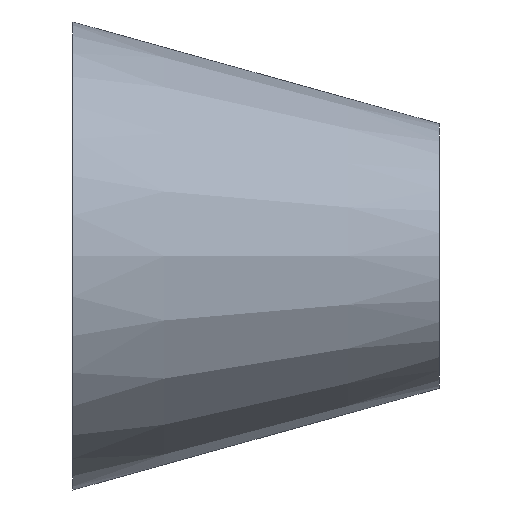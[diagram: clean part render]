
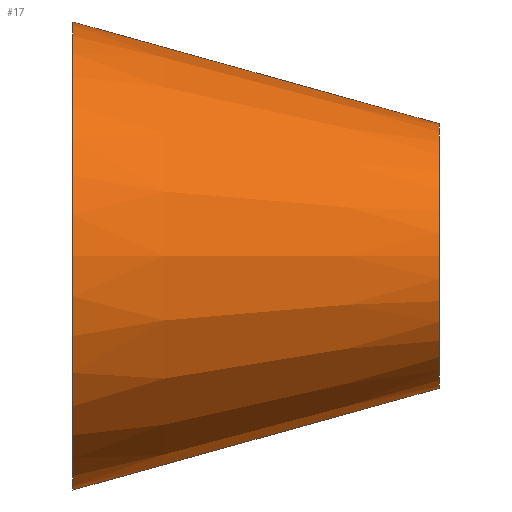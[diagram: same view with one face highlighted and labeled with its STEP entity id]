
A CAD part, front view. The second image highlights one B-rep face of the part: STEP entity #17.
In plain terms, the highlighted conical face has half-angle 15.524 degrees and reference radius 11.5 mm.
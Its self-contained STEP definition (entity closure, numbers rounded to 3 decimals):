
#17 = ADVANCED_FACE('',(#18),#31,.T.);
#18 = FACE_BOUND('',#19,.T.);
#19 = EDGE_LOOP('',(#20,#54,#74,#101));
#20 = ORIENTED_EDGE('',*,*,#21,.T.);
#21 = EDGE_CURVE('',#22,#22,#24,.T.);
#22 = VERTEX_POINT('',#23);
#23 = CARTESIAN_POINT('',(0.,11.5,0.));
#24 = SURFACE_CURVE('',#25,(#30,#42),.PCURVE_S1.);
#25 = CIRCLE('',#26,11.5);
#26 = AXIS2_PLACEMENT_3D('',#27,#28,#29);
#27 = CARTESIAN_POINT('',(0.,0.,0.));
#28 = DIRECTION('',(1.,0.,0.));
#29 = DIRECTION('',(0.,1.,0.));
#30 = PCURVE('',#31,#36);
#31 = CONICAL_SURFACE('',#32,11.5,0.271);
#32 = AXIS2_PLACEMENT_3D('',#33,#34,#35);
#33 = CARTESIAN_POINT('',(0.,0.,0.));
#34 = DIRECTION('',(-1.,-0.,-0.));
#35 = DIRECTION('',(0.,1.,0.));
#36 = DEFINITIONAL_REPRESENTATION('',(#37),#41);
#37 = LINE('',#38,#39);
#38 = CARTESIAN_POINT('',(-0.,-0.));
#39 = VECTOR('',#40,1.);
#40 = DIRECTION('',(-1.,-0.));
#41 = ( GEOMETRIC_REPRESENTATION_CONTEXT(2) 
PARAMETRIC_REPRESENTATION_CONTEXT() REPRESENTATION_CONTEXT('2D SPACE',''
  ) );
#42 = PCURVE('',#43,#48);
#43 = PLANE('',#44);
#44 = AXIS2_PLACEMENT_3D('',#45,#46,#47);
#45 = CARTESIAN_POINT('',(0.,0.,0.));
#46 = DIRECTION('',(1.,0.,0.));
#47 = DIRECTION('',(0.,1.,0.));
#48 = DEFINITIONAL_REPRESENTATION('',(#49),#53);
#49 = CIRCLE('',#50,11.5);
#50 = AXIS2_PLACEMENT_2D('',#51,#52);
#51 = CARTESIAN_POINT('',(0.,0.));
#52 = DIRECTION('',(1.,0.));
#53 = ( GEOMETRIC_REPRESENTATION_CONTEXT(2) 
PARAMETRIC_REPRESENTATION_CONTEXT() REPRESENTATION_CONTEXT('2D SPACE',''
  ) );
#54 = ORIENTED_EDGE('',*,*,#55,.T.);
#55 = EDGE_CURVE('',#22,#56,#58,.T.);
#56 = VERTEX_POINT('',#57);
#57 = CARTESIAN_POINT('',(18.,6.5,0.));
#58 = SEAM_CURVE('',#59,(#62,#68),.PCURVE_S1.);
#59 = B_SPLINE_CURVE_WITH_KNOTS('',1,(#60,#61),.UNSPECIFIED.,.F.,.F.,(2,
    2),(0.,1.),.PIECEWISE_BEZIER_KNOTS.);
#60 = CARTESIAN_POINT('',(0.,11.5,0.));
#61 = CARTESIAN_POINT('',(18.,6.5,0.));
#62 = PCURVE('',#31,#63);
#63 = DEFINITIONAL_REPRESENTATION('',(#64),#67);
#64 = B_SPLINE_CURVE_WITH_KNOTS('',1,(#65,#66),.UNSPECIFIED.,.F.,.F.,(2,
    2),(0.,1.),.PIECEWISE_BEZIER_KNOTS.);
#65 = CARTESIAN_POINT('',(-6.283,0.));
#66 = CARTESIAN_POINT('',(-6.283,-18.));
#67 = ( GEOMETRIC_REPRESENTATION_CONTEXT(2) 
PARAMETRIC_REPRESENTATION_CONTEXT() REPRESENTATION_CONTEXT('2D SPACE',''
  ) );
#68 = PCURVE('',#31,#69);
#69 = DEFINITIONAL_REPRESENTATION('',(#70),#73);
#70 = B_SPLINE_CURVE_WITH_KNOTS('',1,(#71,#72),.UNSPECIFIED.,.F.,.F.,(2,
    2),(0.,1.),.PIECEWISE_BEZIER_KNOTS.);
#71 = CARTESIAN_POINT('',(0.,0.));
#72 = CARTESIAN_POINT('',(0.,-18.));
#73 = ( GEOMETRIC_REPRESENTATION_CONTEXT(2) 
PARAMETRIC_REPRESENTATION_CONTEXT() REPRESENTATION_CONTEXT('2D SPACE',''
  ) );
#74 = ORIENTED_EDGE('',*,*,#75,.F.);
#75 = EDGE_CURVE('',#56,#56,#76,.T.);
#76 = SURFACE_CURVE('',#77,(#82,#89),.PCURVE_S1.);
#77 = CIRCLE('',#78,6.5);
#78 = AXIS2_PLACEMENT_3D('',#79,#80,#81);
#79 = CARTESIAN_POINT('',(18.,0.,0.));
#80 = DIRECTION('',(1.,0.,0.));
#81 = DIRECTION('',(0.,1.,0.));
#82 = PCURVE('',#31,#83);
#83 = DEFINITIONAL_REPRESENTATION('',(#84),#88);
#84 = LINE('',#85,#86);
#85 = CARTESIAN_POINT('',(-0.,-18.));
#86 = VECTOR('',#87,1.);
#87 = DIRECTION('',(-1.,-0.));
#88 = ( GEOMETRIC_REPRESENTATION_CONTEXT(2) 
PARAMETRIC_REPRESENTATION_CONTEXT() REPRESENTATION_CONTEXT('2D SPACE',''
  ) );
#89 = PCURVE('',#90,#95);
#90 = PLANE('',#91);
#91 = AXIS2_PLACEMENT_3D('',#92,#93,#94);
#92 = CARTESIAN_POINT('',(18.,0.,0.));
#93 = DIRECTION('',(1.,0.,0.));
#94 = DIRECTION('',(0.,1.,0.));
#95 = DEFINITIONAL_REPRESENTATION('',(#96),#100);
#96 = CIRCLE('',#97,6.5);
#97 = AXIS2_PLACEMENT_2D('',#98,#99);
#98 = CARTESIAN_POINT('',(0.,0.));
#99 = DIRECTION('',(1.,0.));
#100 = ( GEOMETRIC_REPRESENTATION_CONTEXT(2) 
PARAMETRIC_REPRESENTATION_CONTEXT() REPRESENTATION_CONTEXT('2D SPACE',''
  ) );
#101 = ORIENTED_EDGE('',*,*,#55,.F.);
